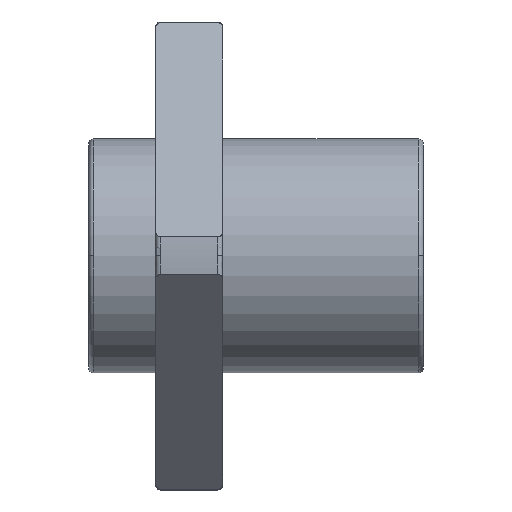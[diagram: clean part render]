
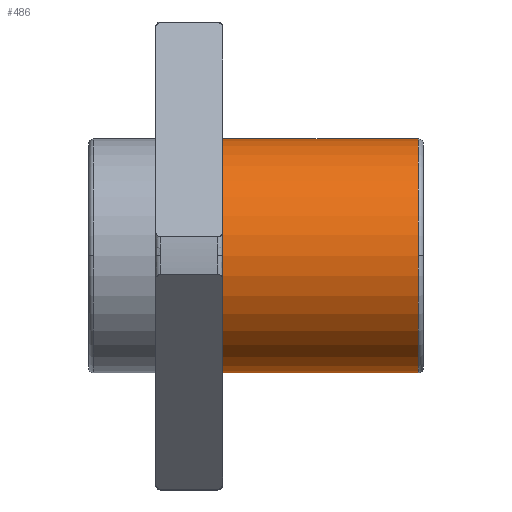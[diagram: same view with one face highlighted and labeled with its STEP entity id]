
A CAD part, top view. The second image highlights one B-rep face of the part: STEP entity #486.
In plain terms, the highlighted cylindrical face has radius 10.5 mm (diameter 21 mm), a partial arc.
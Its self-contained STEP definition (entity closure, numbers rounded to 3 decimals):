
#335 = TOROIDAL_SURFACE('',#336,10.08,0.42);
#336 = AXIS2_PLACEMENT_3D('',#337,#338,#339);
#337 = CARTESIAN_POINT('',(29.58,0.,0.));
#338 = DIRECTION('',(1.,0.,0.));
#339 = DIRECTION('',(0.,0.,-1.));
#347 = TOROIDAL_SURFACE('',#348,10.08,0.42);
#348 = AXIS2_PLACEMENT_3D('',#349,#350,#351);
#349 = CARTESIAN_POINT('',(29.58,0.,0.));
#350 = DIRECTION('',(1.,0.,0.));
#351 = DIRECTION('',(0.,0.,-1.));
#360 = VERTEX_POINT('',#361);
#361 = CARTESIAN_POINT('',(29.58,10.5,0.));
#376 = CYLINDRICAL_SURFACE('',#377,10.5);
#377 = AXIS2_PLACEMENT_3D('',#378,#379,#380);
#378 = CARTESIAN_POINT('',(20.79,0.,0.));
#379 = DIRECTION('',(1.,0.,0.));
#380 = DIRECTION('',(-0.,1.,0.));
#388 = EDGE_CURVE('',#360,#389,#391,.T.);
#389 = VERTEX_POINT('',#390);
#390 = CARTESIAN_POINT('',(29.58,0.,10.5));
#391 = SURFACE_CURVE('',#392,(#397,#404),.PCURVE_S1.);
#392 = CIRCLE('',#393,10.5);
#393 = AXIS2_PLACEMENT_3D('',#394,#395,#396);
#394 = CARTESIAN_POINT('',(29.58,0.,0.));
#395 = DIRECTION('',(1.,0.,0.));
#396 = DIRECTION('',(-0.,1.,0.));
#397 = PCURVE('',#335,#398);
#398 = DEFINITIONAL_REPRESENTATION('',(#399),#403);
#399 = LINE('',#400,#401);
#400 = CARTESIAN_POINT('',(1.571,0.));
#401 = VECTOR('',#402,1.);
#402 = DIRECTION('',(1.,0.));
#403 = ( GEOMETRIC_REPRESENTATION_CONTEXT(2) 
PARAMETRIC_REPRESENTATION_CONTEXT() REPRESENTATION_CONTEXT('2D SPACE',''
  ) );
#404 = PCURVE('',#405,#410);
#405 = CYLINDRICAL_SURFACE('',#406,10.5);
#406 = AXIS2_PLACEMENT_3D('',#407,#408,#409);
#407 = CARTESIAN_POINT('',(20.79,0.,0.));
#408 = DIRECTION('',(1.,0.,0.));
#409 = DIRECTION('',(-0.,1.,0.));
#410 = DEFINITIONAL_REPRESENTATION('',(#411),#415);
#411 = LINE('',#412,#413);
#412 = CARTESIAN_POINT('',(0.,8.79));
#413 = VECTOR('',#414,1.);
#414 = DIRECTION('',(1.,0.));
#415 = ( GEOMETRIC_REPRESENTATION_CONTEXT(2) 
PARAMETRIC_REPRESENTATION_CONTEXT() REPRESENTATION_CONTEXT('2D SPACE',''
  ) );
#486 = ADVANCED_FACE('',(#487),#405,.T.);
#487 = FACE_BOUND('',#488,.T.);
#488 = EDGE_LOOP('',(#489,#512,#541,#564,#586));
#489 = ORIENTED_EDGE('',*,*,#490,.F.);
#490 = EDGE_CURVE('',#491,#360,#493,.T.);
#491 = VERTEX_POINT('',#492);
#492 = CARTESIAN_POINT('',(12.,10.5,0.));
#493 = SURFACE_CURVE('',#494,(#498,#505),.PCURVE_S1.);
#494 = LINE('',#495,#496);
#495 = CARTESIAN_POINT('',(20.79,10.5,0.));
#496 = VECTOR('',#497,1.);
#497 = DIRECTION('',(1.,0.,0.));
#498 = PCURVE('',#405,#499);
#499 = DEFINITIONAL_REPRESENTATION('',(#500),#504);
#500 = LINE('',#501,#502);
#501 = CARTESIAN_POINT('',(0.,0.));
#502 = VECTOR('',#503,1.);
#503 = DIRECTION('',(0.,1.));
#504 = ( GEOMETRIC_REPRESENTATION_CONTEXT(2) 
PARAMETRIC_REPRESENTATION_CONTEXT() REPRESENTATION_CONTEXT('2D SPACE',''
  ) );
#505 = PCURVE('',#376,#506);
#506 = DEFINITIONAL_REPRESENTATION('',(#507),#511);
#507 = LINE('',#508,#509);
#508 = CARTESIAN_POINT('',(6.283,0.));
#509 = VECTOR('',#510,1.);
#510 = DIRECTION('',(0.,1.));
#511 = ( GEOMETRIC_REPRESENTATION_CONTEXT(2) 
PARAMETRIC_REPRESENTATION_CONTEXT() REPRESENTATION_CONTEXT('2D SPACE',''
  ) );
#512 = ORIENTED_EDGE('',*,*,#513,.T.);
#513 = EDGE_CURVE('',#491,#514,#516,.T.);
#514 = VERTEX_POINT('',#515);
#515 = CARTESIAN_POINT('',(12.,-10.5,0.));
#516 = SURFACE_CURVE('',#517,(#522,#529),.PCURVE_S1.);
#517 = CIRCLE('',#518,10.5);
#518 = AXIS2_PLACEMENT_3D('',#519,#520,#521);
#519 = CARTESIAN_POINT('',(12.,0.,0.));
#520 = DIRECTION('',(1.,0.,0.));
#521 = DIRECTION('',(-0.,1.,0.));
#522 = PCURVE('',#405,#523);
#523 = DEFINITIONAL_REPRESENTATION('',(#524),#528);
#524 = LINE('',#525,#526);
#525 = CARTESIAN_POINT('',(0.,-8.79));
#526 = VECTOR('',#527,1.);
#527 = DIRECTION('',(1.,0.));
#528 = ( GEOMETRIC_REPRESENTATION_CONTEXT(2) 
PARAMETRIC_REPRESENTATION_CONTEXT() REPRESENTATION_CONTEXT('2D SPACE',''
  ) );
#529 = PCURVE('',#530,#535);
#530 = PLANE('',#531);
#531 = AXIS2_PLACEMENT_3D('',#532,#533,#534);
#532 = CARTESIAN_POINT('',(12.,15.54,0.));
#533 = DIRECTION('',(1.,0.,0.));
#534 = DIRECTION('',(0.,1.,0.));
#535 = DEFINITIONAL_REPRESENTATION('',(#536),#540);
#536 = CIRCLE('',#537,10.5);
#537 = AXIS2_PLACEMENT_2D('',#538,#539);
#538 = CARTESIAN_POINT('',(-15.54,0.));
#539 = DIRECTION('',(1.,0.));
#540 = ( GEOMETRIC_REPRESENTATION_CONTEXT(2) 
PARAMETRIC_REPRESENTATION_CONTEXT() REPRESENTATION_CONTEXT('2D SPACE',''
  ) );
#541 = ORIENTED_EDGE('',*,*,#542,.F.);
#542 = EDGE_CURVE('',#543,#514,#545,.T.);
#543 = VERTEX_POINT('',#544);
#544 = CARTESIAN_POINT('',(29.58,-10.5,0.));
#545 = SURFACE_CURVE('',#546,(#550,#557),.PCURVE_S1.);
#546 = LINE('',#547,#548);
#547 = CARTESIAN_POINT('',(20.79,-10.5,0.));
#548 = VECTOR('',#549,1.);
#549 = DIRECTION('',(-1.,-0.,-0.));
#550 = PCURVE('',#405,#551);
#551 = DEFINITIONAL_REPRESENTATION('',(#552),#556);
#552 = LINE('',#553,#554);
#553 = CARTESIAN_POINT('',(3.142,0.));
#554 = VECTOR('',#555,1.);
#555 = DIRECTION('',(0.,-1.));
#556 = ( GEOMETRIC_REPRESENTATION_CONTEXT(2) 
PARAMETRIC_REPRESENTATION_CONTEXT() REPRESENTATION_CONTEXT('2D SPACE',''
  ) );
#557 = PCURVE('',#376,#558);
#558 = DEFINITIONAL_REPRESENTATION('',(#559),#563);
#559 = LINE('',#560,#561);
#560 = CARTESIAN_POINT('',(3.142,0.));
#561 = VECTOR('',#562,1.);
#562 = DIRECTION('',(0.,-1.));
#563 = ( GEOMETRIC_REPRESENTATION_CONTEXT(2) 
PARAMETRIC_REPRESENTATION_CONTEXT() REPRESENTATION_CONTEXT('2D SPACE',''
  ) );
#564 = ORIENTED_EDGE('',*,*,#565,.F.);
#565 = EDGE_CURVE('',#389,#543,#566,.T.);
#566 = SURFACE_CURVE('',#567,(#572,#579),.PCURVE_S1.);
#567 = CIRCLE('',#568,10.5);
#568 = AXIS2_PLACEMENT_3D('',#569,#570,#571);
#569 = CARTESIAN_POINT('',(29.58,0.,0.));
#570 = DIRECTION('',(1.,0.,0.));
#571 = DIRECTION('',(-0.,1.,0.));
#572 = PCURVE('',#405,#573);
#573 = DEFINITIONAL_REPRESENTATION('',(#574),#578);
#574 = LINE('',#575,#576);
#575 = CARTESIAN_POINT('',(0.,8.79));
#576 = VECTOR('',#577,1.);
#577 = DIRECTION('',(1.,0.));
#578 = ( GEOMETRIC_REPRESENTATION_CONTEXT(2) 
PARAMETRIC_REPRESENTATION_CONTEXT() REPRESENTATION_CONTEXT('2D SPACE',''
  ) );
#579 = PCURVE('',#347,#580);
#580 = DEFINITIONAL_REPRESENTATION('',(#581),#585);
#581 = LINE('',#582,#583);
#582 = CARTESIAN_POINT('',(1.571,0.));
#583 = VECTOR('',#584,1.);
#584 = DIRECTION('',(1.,0.));
#585 = ( GEOMETRIC_REPRESENTATION_CONTEXT(2) 
PARAMETRIC_REPRESENTATION_CONTEXT() REPRESENTATION_CONTEXT('2D SPACE',''
  ) );
#586 = ORIENTED_EDGE('',*,*,#388,.F.);
